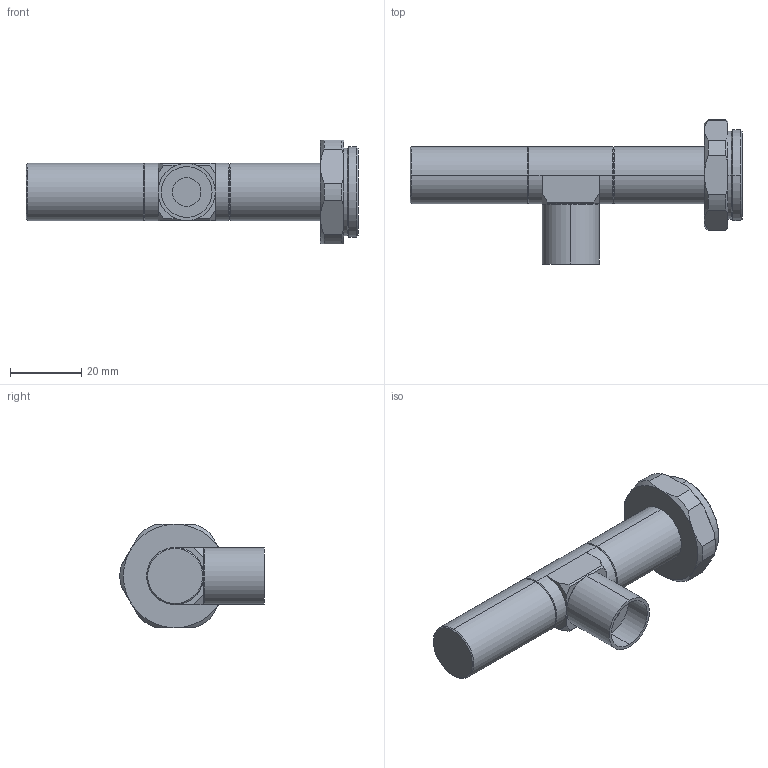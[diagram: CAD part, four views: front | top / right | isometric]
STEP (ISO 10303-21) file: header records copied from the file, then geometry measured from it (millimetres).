
FILE_DESCRIPTION (( 'STEP AP203' ), '1' );
FILE_NAME ('TS-APT1X65D_Drawing_M0251F-A001.STEP', '2023-01-31T05:51:29', ( '' ), ( '' ), 'SwSTEP 2.0', 'SolidWorks 2021', '' );
FILE_SCHEMA (( 'CONFIG_CONTROL_DESIGN' ));
Length unit declared in the file: millimetre
Products named in the file (1): TS-APT1X65D_Drawing_M0251F-A001
Bounding box: 92.96 x 40.38 x 29 mm (x, y, z)
Volume: 25314.9 mm3; surface area: 8069.6 mm2
Topology: 1 solids, 1 shells, 81 faces, 190 edges, 115 vertices
Faces by surface type: cone 31, plane 27, cylinder 23
Entity records: 2436 total; most frequent: CARTESIAN_POINT 514, DIRECTION 395, ORIENTED_EDGE 380, EDGE_CURVE 190, AXIS2_PLACEMENT_3D 156, VERTEX_POINT 115, EDGE_LOOP 85, LINE 83
